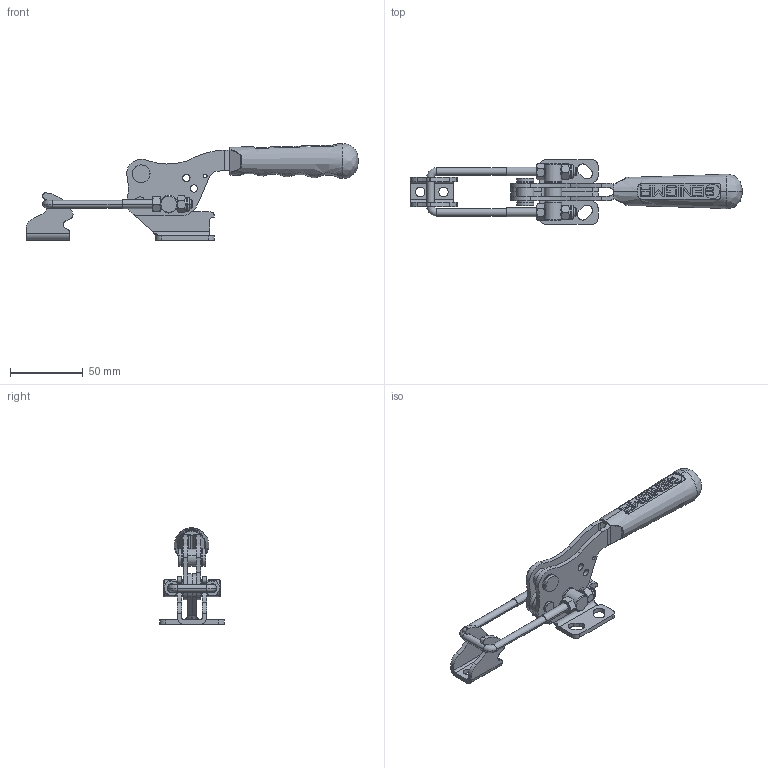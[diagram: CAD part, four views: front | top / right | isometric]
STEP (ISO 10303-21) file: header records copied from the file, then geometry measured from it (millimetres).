
FILE_DESCRIPTION (( 'STEP AP203' ), '1' );
FILE_NAME ('13106_Y.STEP', '2022-11-30T12:02:19', ( '' ), ( '' ), 'SwSTEP 2.0', 'SolidWorks 2023', '' );
FILE_SCHEMA (( 'CONFIG_CONTROL_DESIGN' ));
Length unit declared in the file: millimetre
Products named in the file (13): M6_KK_1; 13206_ALMANYA_HAREKET_KOLU_10.08.22-17.03_1; 13206_ALMANYA_Y_G_X2_00d6_X0_VDE_10.08.22-16.56_1; M6x50_U_KANCA_Varsayılan; 5x17_PER_X2_00c70130_X0_N_Varsay_X2_0131_X0_lan_1; _X2_00d8_X0_12x18,7_OTOMAT_1; M6_F_X2_0130_X0_BERL_X2_0130_X0__SOMUN_1; _X2_00d8_X0_12xM6_U_KANCA_M_X2_0130_X0_L_X2_0130_X0__OTOMATI_Varsay_X2_0131_X0_lan_1; M6_SOMUN_1; C90_Yeni_Tutamak_Varsay_X2_0131_X0_lan_1; Mirror13206_ALMANYA_Y_G_X2_00d6_X0_VDE_10.08.22-16.56_1; 13106_Y; Mirror13206_ALMANYA_HAREKET_KOLU_10.08.22-17.03_1
Assembly tree (14 placements, depth 2):
  13106_Y
    13206_ALMANYA_Y_G_X2_00d6_X0_VDE_10.08.22-16.56_1
    13206_ALMANYA_HAREKET_KOLU_10.08.22-17.03_1
    C90_Yeni_Tutamak_Varsay_X2_0131_X0_lan_1
    M6_KK_1
    Mirror13206_ALMANYA_HAREKET_KOLU_10.08.22-17.03_1
    Mirror13206_ALMANYA_Y_G_X2_00d6_X0_VDE_10.08.22-16.56_1
    _X2_00d8_X0_12xM6_U_KANCA_M_X2_0130_X0_L_X2_0130_X0__OTOMATI_Varsay_X2_0131_X0_lan_1
    _X2_00d8_X0_12x18,7_OTOMAT_1
    5x17_PER_X2_00c70130_X0_N_Varsay_X2_0131_X0_lan_1
    M6_F_X2_0130_X0_BERL_X2_0130_X0__SOMUN_1  x2
    M6_SOMUN_1  x2
    M6x50_U_KANCA_Varsayılan
Bounding box: 228.15 x 44.39 x 66.23 mm (x, y, z)
Volume: 68334.1 mm3; surface area: 46011.1 mm2
Topology: 14 solids, 14 shells, 599 faces, 1540 edges, 987 vertices
Faces by surface type: plane 279, cylinder 194, bspline 68, cone 54, torus 4
Entity records: 32564 total; most frequent: CARTESIAN_POINT 17941, ORIENTED_EDGE 2832, DIRECTION 2635, EDGE_CURVE 1416, AXIS2_PLACEMENT_3D 945, VERTEX_POINT 913, VECTOR 745, LINE 745
